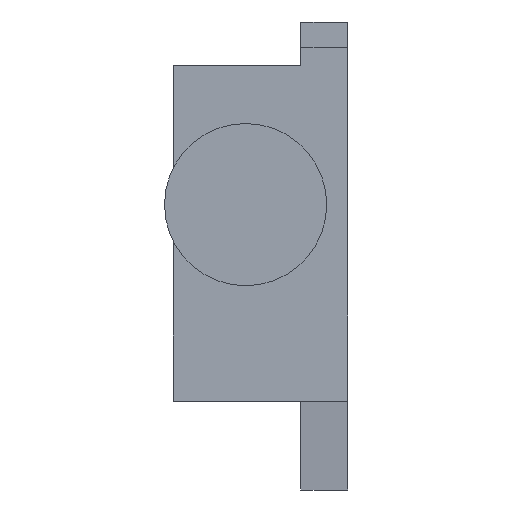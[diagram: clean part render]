
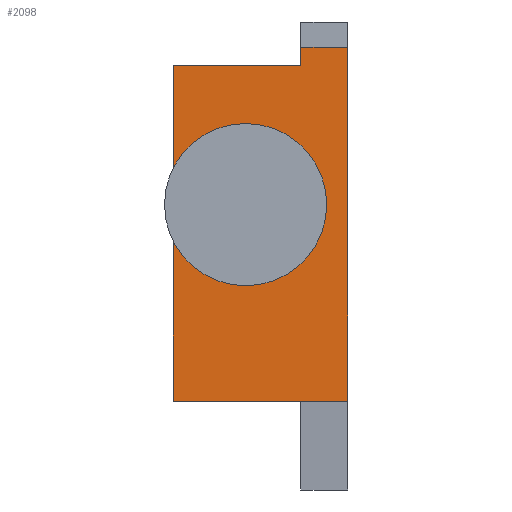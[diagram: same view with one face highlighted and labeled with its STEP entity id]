
A CAD part, left-side view. The second image highlights one B-rep face of the part: STEP entity #2098.
In plain terms, the highlighted planar face has unit normal (-1, 0, 0).
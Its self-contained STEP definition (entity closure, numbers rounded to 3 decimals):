
#53 = AXIS2_PLACEMENT_3D ( 'NONE', #1787, #1800, #1801 ) ;
#108 = AXIS2_PLACEMENT_3D ( 'NONE', #1228, #1230, #1231 ) ;
#109 = AXIS2_PLACEMENT_3D ( 'NONE', #1478, #1497, #1498 ) ;
#204 = EDGE_LOOP ( 'NONE', ( #294, #293 ) ) ;
#213 = EDGE_LOOP ( 'NONE', ( #299, #298, #290, #297, #296, #295 ) ) ;
#290 = ORIENTED_EDGE ( 'NONE', *, *, #670, .T. ) ;
#293 = ORIENTED_EDGE ( 'NONE', *, *, #581, .F. ) ;
#294 = ORIENTED_EDGE ( 'NONE', *, *, #699, .F. ) ;
#295 = ORIENTED_EDGE ( 'NONE', *, *, #664, .T. ) ;
#296 = ORIENTED_EDGE ( 'NONE', *, *, #676, .F. ) ;
#297 = ORIENTED_EDGE ( 'NONE', *, *, #693, .F. ) ;
#298 = ORIENTED_EDGE ( 'NONE', *, *, #682, .T. ) ;
#299 = ORIENTED_EDGE ( 'NONE', *, *, #687, .F. ) ;
#581 = EDGE_CURVE ( 'NONE', #1065, #1029, #820, .T. ) ;
#664 = EDGE_CURVE ( 'NONE', #1104, #1100, #940, .T. ) ;
#670 = EDGE_CURVE ( 'NONE', #1101, #1102, #957, .T. ) ;
#676 = EDGE_CURVE ( 'NONE', #1104, #1103, #967, .T. ) ;
#682 = EDGE_CURVE ( 'NONE', #1099, #1101, #978, .T. ) ;
#687 = EDGE_CURVE ( 'NONE', #1099, #1100, #997, .T. ) ;
#693 = EDGE_CURVE ( 'NONE', #1103, #1102, #999, .T. ) ;
#699 = EDGE_CURVE ( 'NONE', #1029, #1065, #1910, .T. ) ;
#820 = CIRCLE ( 'NONE', #108, 5. ) ;
#940 = LINE ( 'NONE', #1410, #954 ) ;
#954 = VECTOR ( 'NONE', #1421, 1000. ) ;
#957 = LINE ( 'NONE', #1428, #966 ) ;
#966 = VECTOR ( 'NONE', #1434, 1000. ) ;
#967 = LINE ( 'NONE', #1437, #977 ) ;
#977 = VECTOR ( 'NONE', #1447, 1000. ) ;
#978 = LINE ( 'NONE', #1454, #988 ) ;
#988 = VECTOR ( 'NONE', #1459, 1000. ) ;
#997 = LINE ( 'NONE', #1469, #998 ) ;
#998 = VECTOR ( 'NONE', #1470, 1000. ) ;
#999 = LINE ( 'NONE', #1484, #1004 ) ;
#1004 = VECTOR ( 'NONE', #1485, 1000. ) ;
#1029 = VERTEX_POINT ( 'NONE', #1542 ) ;
#1065 = VERTEX_POINT ( 'NONE', #1578 ) ;
#1099 = VERTEX_POINT ( 'NONE', #1612 ) ;
#1100 = VERTEX_POINT ( 'NONE', #1613 ) ;
#1101 = VERTEX_POINT ( 'NONE', #1614 ) ;
#1102 = VERTEX_POINT ( 'NONE', #1615 ) ;
#1103 = VERTEX_POINT ( 'NONE', #1616 ) ;
#1104 = VERTEX_POINT ( 'NONE', #1617 ) ;
#1228 = CARTESIAN_POINT ( 'NONE',  ( -1149., 12., -5.4 ) ) ;
#1230 = DIRECTION ( 'NONE',  ( -1., 0., 0. ) ) ;
#1231 = DIRECTION ( 'NONE',  ( 0., 0., 1. ) ) ;
#1410 = CARTESIAN_POINT ( 'NONE',  ( -1149., 5.5, -28.541 ) ) ;
#1421 = DIRECTION ( 'NONE',  ( 0., 0., -1. ) ) ;
#1428 = CARTESIAN_POINT ( 'NONE',  ( -1149., 20.5, -28.541 ) ) ;
#1434 = DIRECTION ( 'NONE',  ( 0., -1., 0. ) ) ;
#1437 = CARTESIAN_POINT ( 'NONE',  ( -1149., 5.5, 13.1 ) ) ;
#1447 = DIRECTION ( 'NONE',  ( 0., -1., 0. ) ) ;
#1454 = CARTESIAN_POINT ( 'NONE',  ( -1149., 20.5, -28.541 ) ) ;
#1459 = DIRECTION ( 'NONE',  ( 0., 0., -1. ) ) ;
#1469 = CARTESIAN_POINT ( 'NONE',  ( -1149., 20.5, 11. ) ) ;
#1470 = DIRECTION ( 'NONE',  ( 0., -1., 0. ) ) ;
#1478 = CARTESIAN_POINT ( 'NONE',  ( -1149., 12., -5.4 ) ) ;
#1484 = CARTESIAN_POINT ( 'NONE',  ( -1149., 0., -28.541 ) ) ;
#1485 = DIRECTION ( 'NONE',  ( 0., 0., -1. ) ) ;
#1497 = DIRECTION ( 'NONE',  ( -1., 0., 0. ) ) ;
#1498 = DIRECTION ( 'NONE',  ( 0., 0., 1. ) ) ;
#1542 = CARTESIAN_POINT ( 'NONE',  ( -1149., 12., -0.4 ) ) ;
#1578 = CARTESIAN_POINT ( 'NONE',  ( -1149., 12., -10.4 ) ) ;
#1612 = CARTESIAN_POINT ( 'NONE',  ( -1149., 20.5, 11. ) ) ;
#1613 = CARTESIAN_POINT ( 'NONE',  ( -1149., 5.5, 11. ) ) ;
#1614 = CARTESIAN_POINT ( 'NONE',  ( -1149., 20.5, -28.541 ) ) ;
#1615 = CARTESIAN_POINT ( 'NONE',  ( -1149., 0., -28.541 ) ) ;
#1616 = CARTESIAN_POINT ( 'NONE',  ( -1149., 0., 13.1 ) ) ;
#1617 = CARTESIAN_POINT ( 'NONE',  ( -1149., 5.5, 13.1 ) ) ;
#1787 = CARTESIAN_POINT ( 'NONE',  ( -1149., 20.5, -28.541 ) ) ;
#1799 = PLANE ( 'NONE',  #53 ) ;
#1800 = DIRECTION ( 'NONE',  ( 1., 0., 0. ) ) ;
#1801 = DIRECTION ( 'NONE',  ( 0., 0., 1. ) ) ;
#1910 = CIRCLE ( 'NONE', #109, 5. ) ;
#1998 = FACE_BOUND ( 'NONE', #204, .T. ) ;
#2005 = FACE_OUTER_BOUND ( 'NONE', #213, .T. ) ;
#2098 = ADVANCED_FACE ( 'NONE', ( #2005, #1998 ), #1799, .F. ) ;
